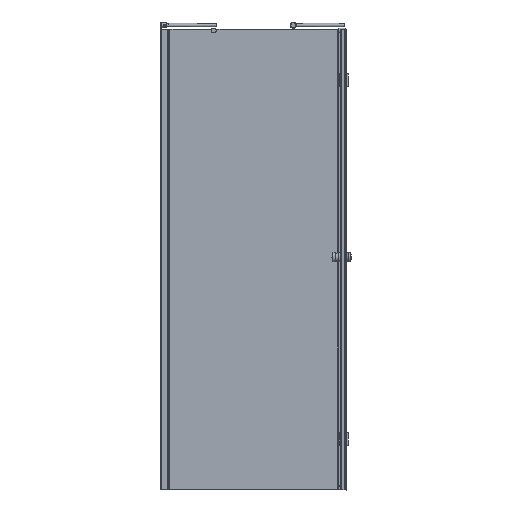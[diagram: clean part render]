
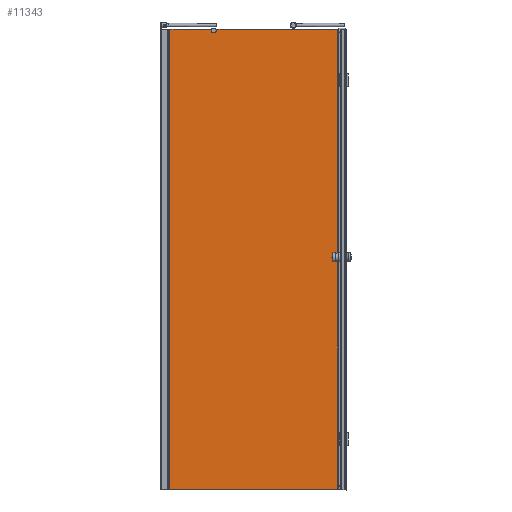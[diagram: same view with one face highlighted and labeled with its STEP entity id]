
A CAD part, front view. The second image highlights one B-rep face of the part: STEP entity #11343.
In plain terms, the highlighted planar face has unit normal (0, -1, 0).
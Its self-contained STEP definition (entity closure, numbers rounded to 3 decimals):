
#724=FACE_OUTER_BOUND($,#1321,.T.);
#1321=EDGE_LOOP($,(#8995,#8996,#8997,#8998,#8999,#9000,#9001,#9002,#9003,
#9004,#9005,#9006,#9007,#9008,#9009,#9010,#9011,#9012));
#1807=CIRCLE($,#12236,10.);
#1808=CIRCLE($,#12237,16.);
#1809=CIRCLE($,#12238,0.5);
#1810=CIRCLE($,#12239,16.);
#2205=LINE($,#16582,#3329);
#2273=LINE($,#16802,#3397);
#2356=LINE($,#17166,#3480);
#2360=LINE($,#17174,#3484);
#2716=LINE($,#18095,#3840);
#2721=LINE($,#18109,#3845);
#2744=LINE($,#18239,#3868);
#2756=LINE($,#18268,#3880);
#2757=LINE($,#18272,#3881);
#2762=LINE($,#18297,#3886);
#2768=LINE($,#18318,#3892);
#2769=LINE($,#18321,#3893);
#2770=LINE($,#18322,#3894);
#2771=LINE($,#18328,#3895);
#3329=VECTOR($,#13329,1899.);
#3397=VECTOR($,#13555,1.);
#3480=VECTOR($,#13826,5.581);
#3484=VECTOR($,#13832,2.);
#3840=VECTOR($,#14586,0.019);
#3845=VECTOR($,#14597,1.213);
#3868=VECTOR($,#14672,1885.333);
#3880=VECTOR($,#14700,1898.);
#3881=VECTOR($,#14705,1898.);
#3886=VECTOR($,#14722,11.592);
#3892=VECTOR($,#14750,502.066);
#3893=VECTOR($,#14753,180.474);
#3894=VECTOR($,#14754,699.4);
#3895=VECTOR($,#14761,3.387);
#4445=VERTEX_POINT($,#16580);
#4446=VERTEX_POINT($,#16581);
#4519=VERTEX_POINT($,#16801);
#4612=VERTEX_POINT($,#17164);
#4613=VERTEX_POINT($,#17165);
#4616=VERTEX_POINT($,#17173);
#4889=VERTEX_POINT($,#18094);
#4894=VERTEX_POINT($,#18106);
#4895=VERTEX_POINT($,#18108);
#4927=VERTEX_POINT($,#18226);
#4928=VERTEX_POINT($,#18237);
#4937=VERTEX_POINT($,#18266);
#4938=VERTEX_POINT($,#18270);
#4942=VERTEX_POINT($,#18286);
#4946=VERTEX_POINT($,#18317);
#4947=VERTEX_POINT($,#18319);
#4948=VERTEX_POINT($,#18323);
#4949=VERTEX_POINT($,#18325);
#5613=EDGE_CURVE($,#4445,#4446,#2205,.T.);
#5724=EDGE_CURVE($,#4519,#4445,#2273,.T.);
#5863=EDGE_CURVE($,#4612,#4613,#2356,.T.);
#5867=EDGE_CURVE($,#4616,#4613,#2360,.T.);
#6286=EDGE_CURVE($,#4889,#4612,#2716,.T.);
#6293=EDGE_CURVE($,#4894,#4895,#2721,.T.);
#6338=EDGE_CURVE($,#4928,#4927,#2744,.T.);
#6353=EDGE_CURVE($,#4895,#4937,#2756,.T.);
#6355=EDGE_CURVE($,#4894,#4938,#2757,.T.);
#6363=EDGE_CURVE($,#4942,#4616,#2762,.T.);
#6373=EDGE_CURVE($,#4946,#4938,#2768,.T.);
#6374=EDGE_CURVE($,#4947,#4946,#1807,.T.);
#6375=EDGE_CURVE($,#4519,#4947,#2769,.T.);
#6376=EDGE_CURVE($,#4446,#4889,#2770,.T.);
#6377=EDGE_CURVE($,#4948,#4942,#1808,.T.);
#6378=EDGE_CURVE($,#4949,#4948,#1809,.T.);
#6379=EDGE_CURVE($,#4927,#4949,#1810,.T.);
#6380=EDGE_CURVE($,#4937,#4928,#2771,.T.);
#8995=ORIENTED_EDGE($,*,*,#6355,.T.);
#8996=ORIENTED_EDGE($,*,*,#6373,.F.);
#8997=ORIENTED_EDGE($,*,*,#6374,.F.);
#8998=ORIENTED_EDGE($,*,*,#6375,.F.);
#8999=ORIENTED_EDGE($,*,*,#5724,.T.);
#9000=ORIENTED_EDGE($,*,*,#5613,.T.);
#9001=ORIENTED_EDGE($,*,*,#6376,.T.);
#9002=ORIENTED_EDGE($,*,*,#6286,.T.);
#9003=ORIENTED_EDGE($,*,*,#5863,.T.);
#9004=ORIENTED_EDGE($,*,*,#5867,.F.);
#9005=ORIENTED_EDGE($,*,*,#6363,.F.);
#9006=ORIENTED_EDGE($,*,*,#6377,.F.);
#9007=ORIENTED_EDGE($,*,*,#6378,.F.);
#9008=ORIENTED_EDGE($,*,*,#6379,.F.);
#9009=ORIENTED_EDGE($,*,*,#6338,.F.);
#9010=ORIENTED_EDGE($,*,*,#6380,.F.);
#9011=ORIENTED_EDGE($,*,*,#6353,.F.);
#9012=ORIENTED_EDGE($,*,*,#6293,.F.);
#10237=PLANE($,#12235);
#11343=ADVANCED_FACE($,(#724),#10237,.F.);
#12235=AXIS2_PLACEMENT_3D($,#18316,#14748,#14749);
#12236=AXIS2_PLACEMENT_3D($,#18320,#14751,#14752);
#12237=AXIS2_PLACEMENT_3D($,#18324,#14755,#14756);
#12238=AXIS2_PLACEMENT_3D($,#18326,#14757,#14758);
#12239=AXIS2_PLACEMENT_3D($,#18327,#14759,#14760);
#13329=DIRECTION($,(0.,0.,-1.));
#13555=DIRECTION($,(0.,0.,-1.));
#13826=DIRECTION($,(1.,0.,0.));
#13832=DIRECTION($,(0.,0.,-1.));
#14586=DIRECTION($,(1.,0.,0.));
#14597=DIRECTION($,(1.,0.,0.));
#14672=DIRECTION($,(0.,0.,-1.));
#14700=DIRECTION($,(0.,0.,1.));
#14705=DIRECTION($,(0.,0.,1.));
#14722=DIRECTION($,(0.,0.,-1.));
#14748=DIRECTION('center_axis',(0.,1.,0.));
#14749=DIRECTION('ref_axis',(1.,0.,0.));
#14750=DIRECTION($,(1.,0.,0.));
#14751=DIRECTION('center_axis',(0.,-1.,0.));
#14752=DIRECTION('ref_axis',(0.,0.,
-1.));
#14753=DIRECTION($,(1.,0.,0.));
#14754=DIRECTION($,(1.,0.,0.));
#14755=DIRECTION('center_axis',(0.,-1.,0.));
#14756=DIRECTION('ref_axis',(0.71,0.,-0.704));
#14757=DIRECTION('center_axis',(0.,-1.,0.));
#14758=DIRECTION('ref_axis',(0.169,0.,-0.986));
#14759=DIRECTION('center_axis',(0.,1.,0.));
#14760=DIRECTION('ref_axis',(-0.747,0.,
0.665));
#14761=DIRECTION($,(1.,0.,0.));
#16580=CARTESIAN_POINT('',(481.733,2219.956,1384.944));
#16581=CARTESIAN_POINT('',(481.733,2219.956,-514.056));
#16582=CARTESIAN_POINT($,(481.733,2219.956,1385.944));
#16801=CARTESIAN_POINT('',(481.733,2219.956,1385.944));
#16802=CARTESIAN_POINT($,(481.733,2219.956,1385.944));
#17164=CARTESIAN_POINT('',(1181.152,2219.956,-514.056));
#17165=CARTESIAN_POINT('',(1186.733,2219.956,-514.056));
#17166=CARTESIAN_POINT($,(481.733,2219.956,-514.056));
#17173=CARTESIAN_POINT('',(1186.733,2219.956,-512.056));
#17174=CARTESIAN_POINT($,(1186.733,2219.956,1385.944));
#18094=CARTESIAN_POINT('',(1181.133,2219.956,-514.056));
#18095=CARTESIAN_POINT($,(481.733,2219.956,-514.056));
#18106=CARTESIAN_POINT('',(1182.133,2219.956,-512.056));
#18108=CARTESIAN_POINT('',(1183.346,2219.956,-512.056));
#18109=CARTESIAN_POINT($,(833.641,2219.956,-512.056));
#18226=CARTESIAN_POINT('',(1186.733,2219.956,-499.389));
#18237=CARTESIAN_POINT('',(1186.733,2219.956,1385.944));
#18239=CARTESIAN_POINT($,(1186.733,2219.956,1385.944));
#18266=CARTESIAN_POINT('',(1183.346,2219.956,1385.944));
#18268=CARTESIAN_POINT($,(1183.346,2219.956,-512.056));
#18270=CARTESIAN_POINT('',(1182.133,2219.956,1385.944));
#18272=CARTESIAN_POINT($,(1182.133,2219.956,-512.056));
#18286=CARTESIAN_POINT('',(1186.733,2219.956,-500.463));
#18297=CARTESIAN_POINT($,(1186.733,2219.956,1385.944));
#18316=CARTESIAN_POINT('Origin',(481.733,2219.956,1385.944));
#18317=CARTESIAN_POINT('',(680.068,2219.956,1385.944));
#18318=CARTESIAN_POINT($,(481.733,2219.956,1385.944));
#18319=CARTESIAN_POINT('',(662.207,2219.956,1385.944));
#18320=CARTESIAN_POINT('Origin',(671.137,2219.956,1381.444));
#18321=CARTESIAN_POINT($,(481.733,2219.956,1385.944));
#18322=CARTESIAN_POINT($,(481.733,2219.956,-514.056));
#18323=CARTESIAN_POINT('',(1185.818,2219.956,-500.648));
#18324=CARTESIAN_POINT('Origin',(1183.108,2219.956,-484.88));
#18325=CARTESIAN_POINT('',(1185.628,2219.956,-499.667));
#18326=CARTESIAN_POINT('Origin',(1185.733,2219.956,-500.156));
#18327=CARTESIAN_POINT('Origin',(1182.279,2219.956,-484.021));
#18328=CARTESIAN_POINT($,(481.733,2219.956,1385.944));
